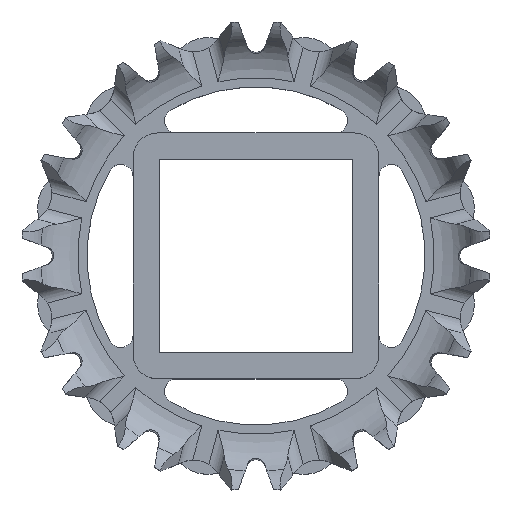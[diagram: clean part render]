
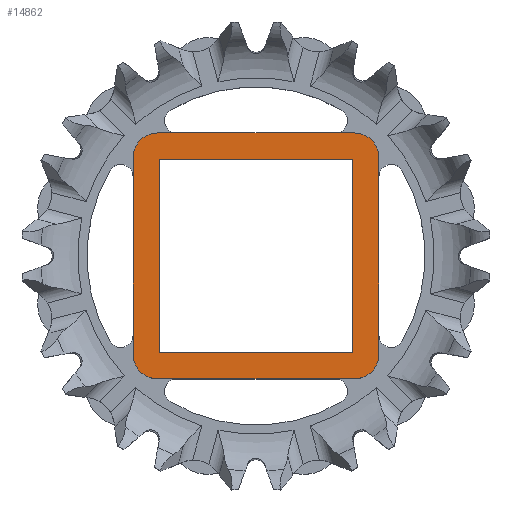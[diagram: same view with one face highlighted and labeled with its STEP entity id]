
A CAD part, top view. The second image highlights one B-rep face of the part: STEP entity #14862.
In plain terms, the highlighted planar face has unit normal (0, 0, 1).
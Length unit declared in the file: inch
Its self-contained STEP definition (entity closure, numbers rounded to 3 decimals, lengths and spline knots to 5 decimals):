
#6989=CARTESIAN_POINT('',(0.8,0.8,0.49));
#6990=DIRECTION('',(0.,0.,1.));
#6991=DIRECTION('',(1.,0.,0.));
#6992=AXIS2_PLACEMENT_3D('',#6989,#6990,#6991);
#6994=DIRECTION('',(0.,1.,0.));
#6995=VECTOR('',#6994,1.6);
#6996=CARTESIAN_POINT('',(1.,-0.8,0.49));
#6997=LINE('',#6996,#6995);
#6998=CARTESIAN_POINT('',(0.8,-0.8,0.49));
#6999=DIRECTION('',(0.,0.,1.));
#7000=DIRECTION('',(0.,-1.,0.));
#7001=AXIS2_PLACEMENT_3D('',#6998,#6999,#7000);
#7003=DIRECTION('',(1.,0.,0.));
#7004=VECTOR('',#7003,1.6);
#7005=CARTESIAN_POINT('',(-0.8,-1.,0.49));
#7006=LINE('',#7005,#7004);
#7007=CARTESIAN_POINT('',(-0.8,-0.8,0.49));
#7008=DIRECTION('',(0.,0.,1.));
#7009=DIRECTION('',(-1.,0.,0.));
#7010=AXIS2_PLACEMENT_3D('',#7007,#7008,#7009);
#7012=DIRECTION('',(0.,-1.,0.));
#7013=VECTOR('',#7012,1.6);
#7014=CARTESIAN_POINT('',(-1.,0.8,0.49));
#7015=LINE('',#7014,#7013);
#7016=CARTESIAN_POINT('',(-0.8,0.8,0.49));
#7017=DIRECTION('',(0.,0.,1.));
#7018=DIRECTION('',(0.,1.,0.));
#7019=AXIS2_PLACEMENT_3D('',#7016,#7017,#7018);
#7021=DIRECTION('',(-1.,0.,0.));
#7022=VECTOR('',#7021,1.6);
#7023=CARTESIAN_POINT('',(0.8,1.,0.49));
#7024=LINE('',#7023,#7022);
#7025=DIRECTION('',(1.,0.,0.));
#7026=VECTOR('',#7025,1.575);
#7027=CARTESIAN_POINT('',(-0.7875,-0.7875,0.49));
#7028=LINE('',#7027,#7026);
#7029=DIRECTION('',(0.,1.,0.));
#7030=VECTOR('',#7029,1.575);
#7031=CARTESIAN_POINT('',(0.7875,-0.7875,0.49));
#7032=LINE('',#7031,#7030);
#7033=DIRECTION('',(-1.,0.,0.));
#7034=VECTOR('',#7033,1.575);
#7035=CARTESIAN_POINT('',(0.7875,0.7875,0.49));
#7036=LINE('',#7035,#7034);
#7037=DIRECTION('',(0.,-1.,0.));
#7038=VECTOR('',#7037,1.575);
#7039=CARTESIAN_POINT('',(-0.7875,0.7875,0.49));
#7040=LINE('',#7039,#7038);
#7149=CARTESIAN_POINT('',(1.,0.8,0.49));
#7150=CARTESIAN_POINT('',(0.8,1.,0.49));
#7151=VERTEX_POINT('',#7149);
#7152=VERTEX_POINT('',#7150);
#7153=CARTESIAN_POINT('',(-0.8,1.,0.49));
#7154=VERTEX_POINT('',#7153);
#7155=CARTESIAN_POINT('',(-1.,0.8,0.49));
#7156=VERTEX_POINT('',#7155);
#7157=CARTESIAN_POINT('',(-1.,-0.8,0.49));
#7158=VERTEX_POINT('',#7157);
#7159=CARTESIAN_POINT('',(-0.8,-1.,0.49));
#7160=VERTEX_POINT('',#7159);
#7161=CARTESIAN_POINT('',(0.8,-1.,0.49));
#7162=VERTEX_POINT('',#7161);
#7163=CARTESIAN_POINT('',(1.,-0.8,0.49));
#7164=VERTEX_POINT('',#7163);
#7205=CARTESIAN_POINT('',(-0.7875,-0.7875,0.49));
#7206=CARTESIAN_POINT('',(0.7875,-0.7875,0.49));
#7207=VERTEX_POINT('',#7205);
#7208=VERTEX_POINT('',#7206);
#7209=CARTESIAN_POINT('',(0.7875,0.7875,0.49));
#7210=VERTEX_POINT('',#7209);
#7211=CARTESIAN_POINT('',(-0.7875,0.7875,0.49));
#7212=VERTEX_POINT('',#7211);
#14833=CARTESIAN_POINT('',(0.,0.,0.49));
#14834=DIRECTION('',(0.,0.,1.));
#14835=DIRECTION('',(1.,0.,0.));
#14836=AXIS2_PLACEMENT_3D('',#14833,#14834,#14835);
#14837=PLANE('',#14836);
#14838=ORIENTED_EDGE('',*,*,#14762,.F.);
#14839=ORIENTED_EDGE('',*,*,#14642,.F.);
#14840=ORIENTED_EDGE('',*,*,#14704,.F.);
#14842=ORIENTED_EDGE('',*,*,#14841,.F.);
#14844=ORIENTED_EDGE('',*,*,#14843,.F.);
#14846=ORIENTED_EDGE('',*,*,#14845,.F.);
#14848=ORIENTED_EDGE('',*,*,#14847,.F.);
#14849=ORIENTED_EDGE('',*,*,#14780,.F.);
#14850=EDGE_LOOP('',(#14838,#14839,#14840,#14842,#14844,#14846,#14848,#14849));
#14851=FACE_OUTER_BOUND('',#14850,.F.);
#14853=ORIENTED_EDGE('',*,*,#14852,.T.);
#14855=ORIENTED_EDGE('',*,*,#14854,.T.);
#14857=ORIENTED_EDGE('',*,*,#14856,.T.);
#14859=ORIENTED_EDGE('',*,*,#14858,.T.);
#14860=EDGE_LOOP('',(#14853,#14855,#14857,#14859));
#14861=FACE_BOUND('',#14860,.F.);
#14862=ADVANCED_FACE('',(#14851,#14861),#14837,.T.);
#6993=CIRCLE('',#6992,0.2);
#7002=CIRCLE('',#7001,0.2);
#7011=CIRCLE('',#7010,0.2);
#7020=CIRCLE('',#7019,0.2);
#14642=EDGE_CURVE('',#7164,#7151,#6997,.T.);
#14704=EDGE_CURVE('',#7162,#7164,#7002,.T.);
#14762=EDGE_CURVE('',#7151,#7152,#6993,.T.);
#14780=EDGE_CURVE('',#7152,#7154,#7024,.T.);
#14841=EDGE_CURVE('',#7160,#7162,#7006,.T.);
#14843=EDGE_CURVE('',#7158,#7160,#7011,.T.);
#14845=EDGE_CURVE('',#7156,#7158,#7015,.T.);
#14847=EDGE_CURVE('',#7154,#7156,#7020,.T.);
#14852=EDGE_CURVE('',#7207,#7208,#7028,.T.);
#14854=EDGE_CURVE('',#7208,#7210,#7032,.T.);
#14856=EDGE_CURVE('',#7210,#7212,#7036,.T.);
#14858=EDGE_CURVE('',#7212,#7207,#7040,.T.);
